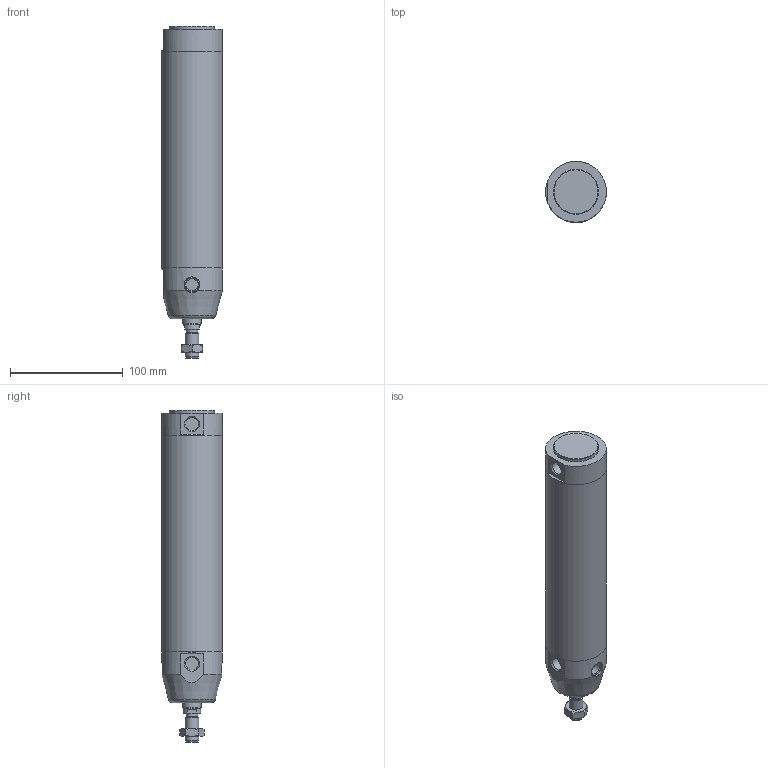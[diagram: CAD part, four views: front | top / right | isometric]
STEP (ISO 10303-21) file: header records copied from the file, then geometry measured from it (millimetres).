
FILE_DESCRIPTION(/* description */ (''),/* implementation_level */ '2;1');
FILE_NAME(/* name */ 'I:\Area Tecnica\Documenti\A-Manieri\_Inventor\12X\12X#E_###_####_#_#\12XAE_050_0150_#_#.stp',/* time_stamp */ '2015-05-08T13:40:27+02:00',/* author */ ('maniean1'),/* organization */ ('Pneumax S.p.A.'),/* preprocessor_version */ 'ST-DEVELOPER v15.2',/* originating_system */ 'Autodesk Inventor 2014',/* authorisation */ '');
FILE_SCHEMA (('AUTOMOTIVE_DESIGN { 1 0 10303 214 3 1 1 }'));
Length unit declared in the file: millimetre
Products named in the file (6): C1250_619-0150; 12X50_622; S12X50_0150; 12X_50_11; 12X50_611; 12XAE_050_0150_#_#
Bounding box: 54 x 54 x 295 mm (x, y, z)
Volume: 317867.4 mm3; surface area: 108132.3 mm2
Topology: 5 solids, 5 shells, 65 faces, 132 edges, 84 vertices
Faces by surface type: plane 33, cylinder 18, cone 13, torus 1
Full cylindrical faces by diameter (mm): 10.2 x1, 10.9 x2, 11.4 x2, 12 x2, 14 x1, 14.1 x2, 15.6 x1, 16 x1, 40 x1, 50 x2, 54 x3
Entity records: 1691 total; most frequent: CARTESIAN_POINT 368, DIRECTION 279, ORIENTED_EDGE 190, AXIS2_PLACEMENT_3D 129, EDGE_LOOP 108, EDGE_CURVE 95, VERTEX_POINT 77, ADVANCED_FACE 65
